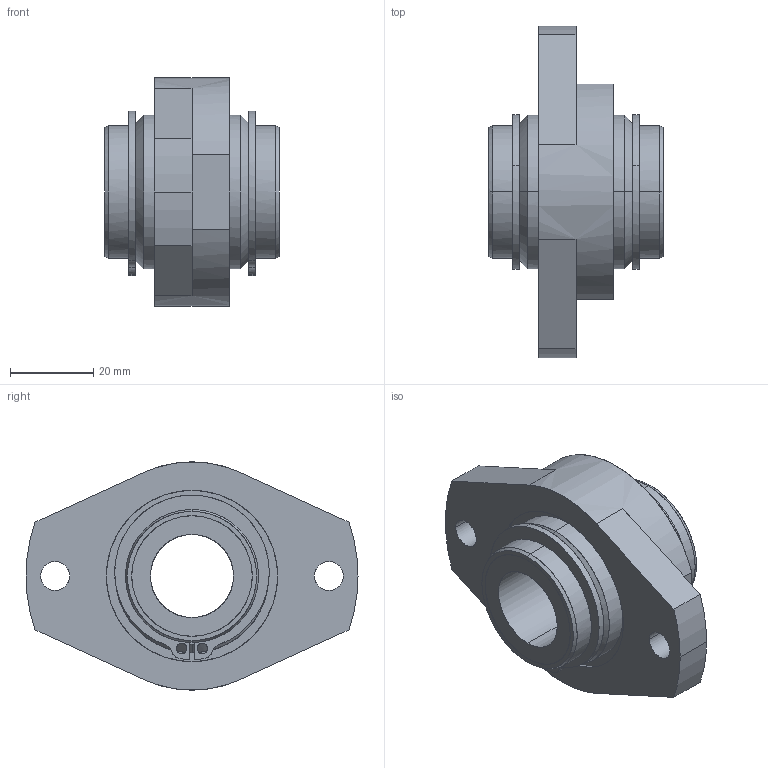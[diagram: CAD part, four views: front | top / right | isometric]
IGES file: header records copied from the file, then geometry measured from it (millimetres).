
Global section: file name: No Iges File Name specified; native system: AutoDesk Inventor R10; preprocessor: AutoDesk Inventor Iges Exporter R10; author: No Author specified; organization: No Organization specified; date: 20101214.161407; units: millimetre
Bounding box: 42 x 80 x 55 mm (x, y, z)
Surface area: 17885.8 mm2 (no closed solid volume)
Topology: 0 solids, 0 shells, 102 faces, 692 edges, 688 vertices
Faces by surface type: bspline 102
